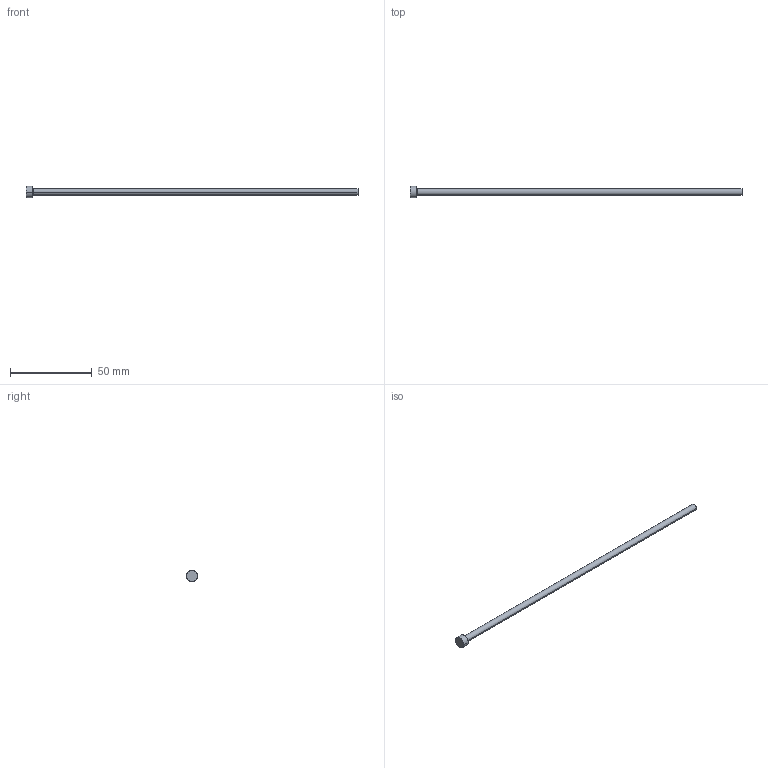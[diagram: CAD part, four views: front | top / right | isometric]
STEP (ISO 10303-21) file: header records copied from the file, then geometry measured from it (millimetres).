
FILE_DESCRIPTION (( 'STEP AP214' ), '1' );
FILE_NAME ('P11-8.STEP', '2020-03-11T17:43:47', ( '' ), ( '' ), 'SwSTEP 2.0', 'SolidWorks 2018', '' );
FILE_SCHEMA (( 'AUTOMOTIVE_DESIGN' ));
Length unit declared in the file: inch
Products named in the file (1): P11-8
Bounding box: 203.2 x 7.14 x 7.14 mm (x, y, z)
Volume: 2615.7 mm3; surface area: 2642 mm2
Topology: 1 solids, 1 shells, 13 faces, 24 edges, 14 vertices
Faces by surface type: cone 4, cylinder 4, plane 3, torus 2
Entity records: 366 total; most frequent: DIRECTION 68, CARTESIAN_POINT 52, ORIENTED_EDGE 48, AXIS2_PLACEMENT_3D 30, EDGE_CURVE 24, CIRCLE 16, VERTEX_POINT 14, EDGE_LOOP 14
